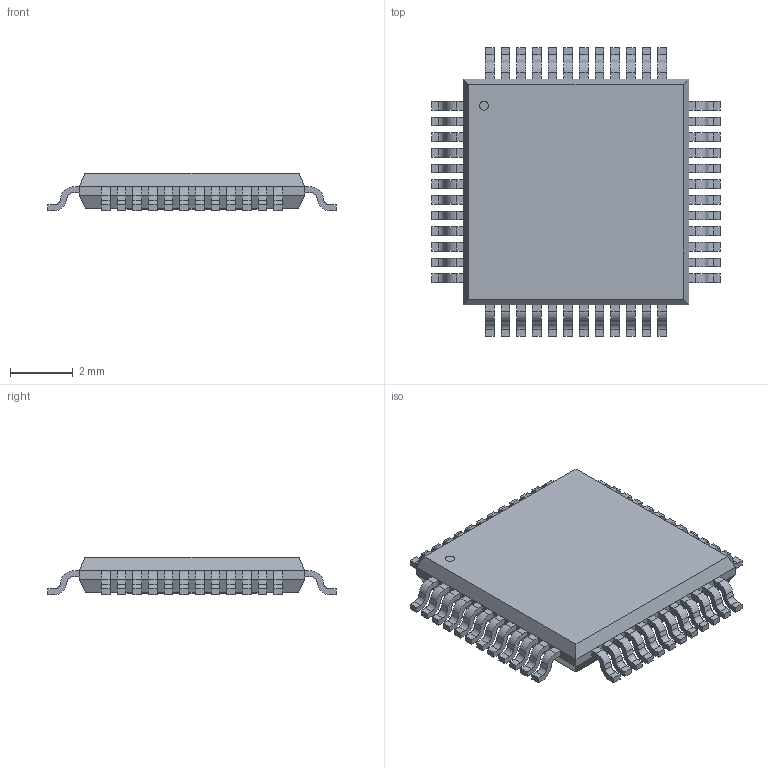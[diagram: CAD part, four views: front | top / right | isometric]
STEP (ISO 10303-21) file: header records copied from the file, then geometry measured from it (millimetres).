
FILE_DESCRIPTION(('STEP AP214'),'1');
FILE_NAME('PHP48_4P1X4P1','2025-04-30T08:36:56',(''),(''),'','','');
FILE_SCHEMA(('AUTOMOTIVE_DESIGN'));
Length unit declared in the file: millimetre
Products named in the file (1): product
Bounding box: 9.19 x 9.19 x 1.2 mm (x, y, z)
Volume: 59.7 mm3; surface area: 225.4 mm2
Topology: 51 solids, 51 shells, 695 faces, 1771 edges, 1178 vertices
Faces by surface type: plane 502, cylinder 193
Full cylindrical faces by diameter (mm): 0.288 x1
Entity records: 20093 total; most frequent: DIRECTION 3550, ORIENTED_EDGE 3540, CARTESIAN_POINT 2069, EDGE_CURVE 1770, LINE 1384, VECTOR 1384, VERTEX_POINT 1178, AXIS2_PLACEMENT_3D 1083
